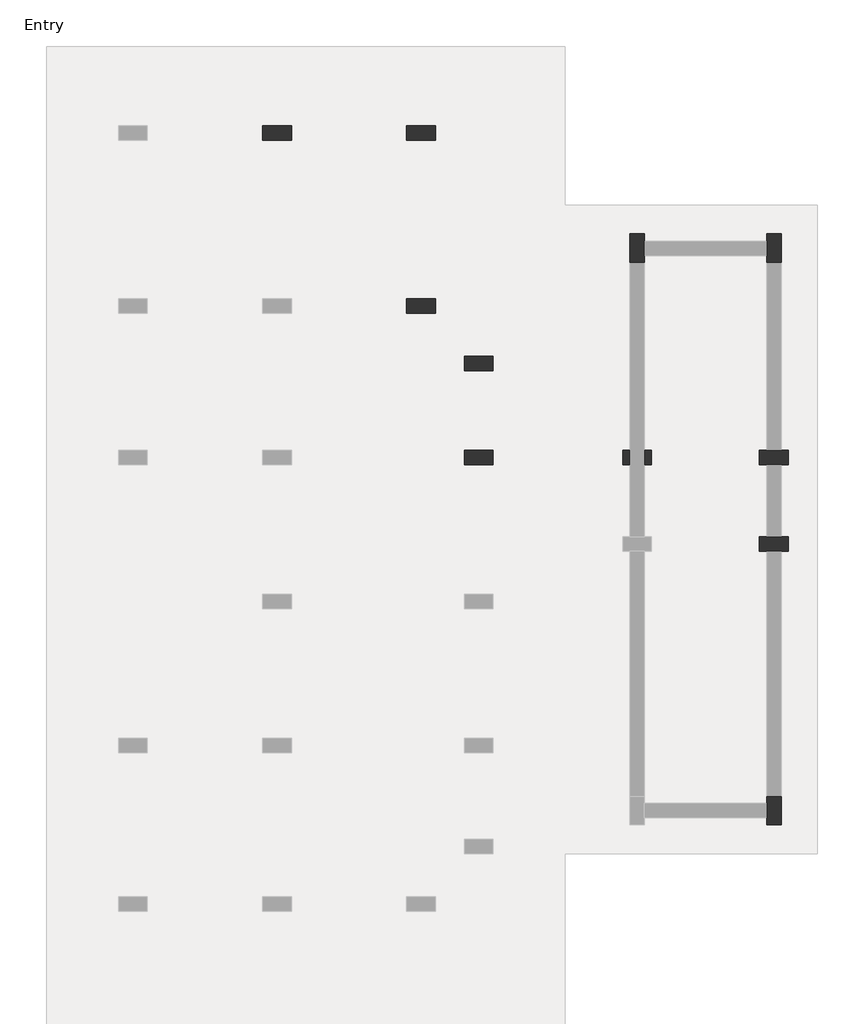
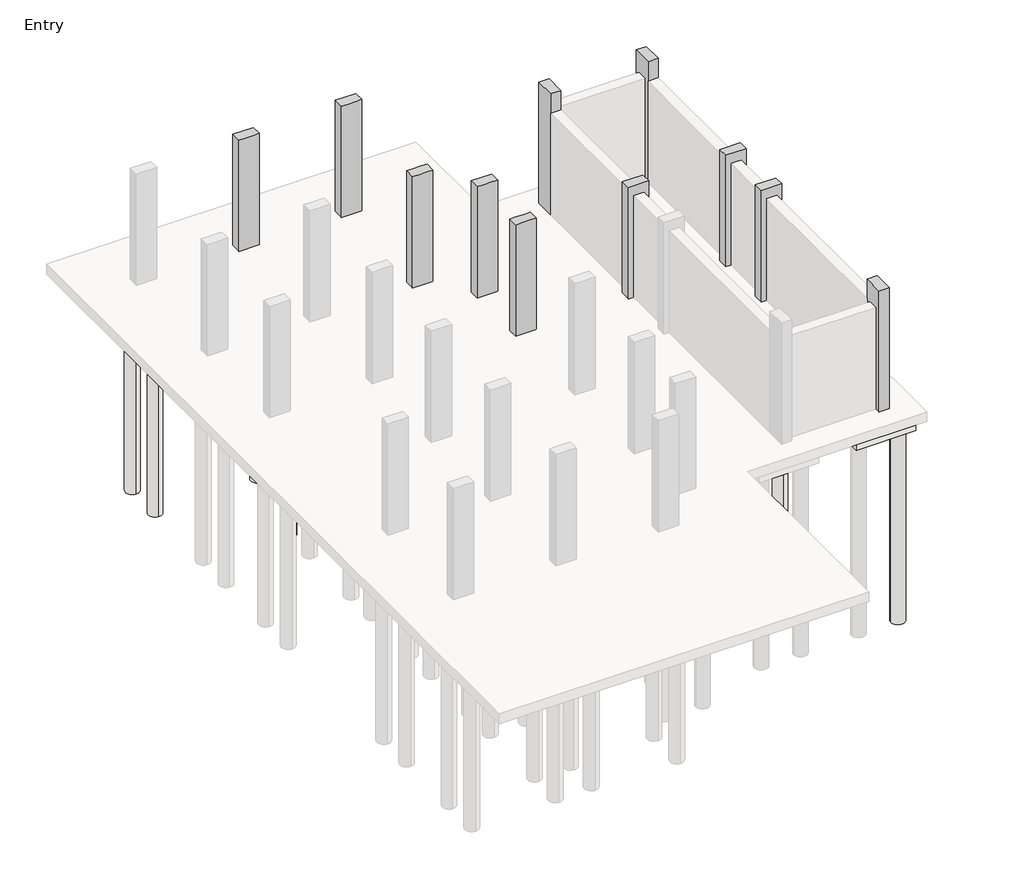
# One storey, part 3 of 3: 36 slabs, 11 columns.
"""IFC4 building model written with IfcOpenShell, lengths in millimetres."""

from ifc_helpers import new_model, si_unit, point, frame, frame_2d, origin, place, context, project, spatial, polyline, circle_curve, trimmed, segment, composite_curve, outline, extrude, faceted_brep, element, save

model = new_model("IFC4")

# Units and contexts
model_context = context("Model", 3, world=origin())
ifc_project = project(units=[si_unit("LENGTHUNIT", "METRE", prefix="MILLI")], contexts=[model_context])

# Site, building, storey
site = spatial("IfcSite", under=ifc_project)
building = spatial("IfcBuilding", under=site)
storey = spatial("IfcBuildingStorey", under=building, Name="Entry", Elevation=0.0)

# Columns
placement = place(None, origin())
element("IfcColumn", 1, ObjectType="Concrete-Rectangular-Column : 12 x 24", at=placement, inside=storey, context=model_context, shape_type="Brep", body=[
    faceted_brep([(-10423.1073204, 23769.0572372, 0.0), (-9813.5073204, 23769.0572372, 0.0), (-9813.5073204, 23464.2572372, 0.0), (-10423.1073204, 23464.2572372, 0.0), (-10423.1073204, 23769.0572372, 3505.2), (-9813.5073204, 23769.0572372, 3505.2), (-9813.5073204, 23769.0572372, 2895.6), (-10423.1073204, 23769.0572372, 2895.6), (-9813.5073204, 23464.2572372, 3505.2), (-9813.5073204, 23464.2572372, 2895.6), (-9965.9073204, 23464.2572372, 3505.2), (-10270.7073204, 23464.2572372, 3505.2), (-10423.1073204, 23464.2572372, 3505.2), (-10423.1073204, 23464.2572372, 2895.6)], [[[0, 1, 2, 3]], [[4, 5, 6, 1, 0, 7]], [[5, 8, 9, 2, 1, 6]], [[8, 10, 11, 12, 13, 3, 2, 9]], [[12, 4, 7, 0, 3, 13]], [[4, 12, 11, 10, 8, 5]]]),
])
element("IfcColumn", 2, ObjectType="Concrete-Rectangular-Column : 12 x 24", at=placement, inside=storey, context=model_context, shape_type="Brep", body=[
    faceted_brep([(-7375.1073204, 23769.0572372, 0.0), (-6765.5073204, 23769.0572372, 0.0), (-6765.5073204, 23464.2572372, 0.0), (-7375.1073204, 23464.2572372, 0.0), (-7375.1073204, 23769.0572372, 3505.2), (-6765.5073204, 23769.0572372, 3505.2), (-7375.1073204, 23769.0572372, 2895.6), (-6765.5073204, 23464.2572372, 3505.2), (-6917.9073204, 23464.2572372, 3505.2), (-7222.7073204, 23464.2572372, 3505.2), (-7375.1073204, 23464.2572372, 3505.2), (-7375.1073204, 23464.2572372, 2895.6)], [[[0, 1, 2, 3]], [[4, 5, 1, 0, 6]], [[5, 7, 2, 1]], [[7, 8, 9, 10, 11, 3, 2]], [[10, 4, 6, 0, 3, 11]], [[4, 10, 9, 8, 7, 5]]]),
])
element("IfcColumn", 3, ObjectType="Concrete-Rectangular-Column : 12 x 24", at=placement, inside=storey, context=model_context, shape_type="Brep", body=[
    faceted_brep([(-7375.1073204, 20111.4572372, 0.0), (-6765.5073204, 20111.4572372, 0.0), (-6765.5073204, 19806.6572372, 0.0), (-7375.1073204, 19806.6572372, 0.0), (-7375.1073204, 20111.4572372, 3505.2), (-7222.7073204, 20111.4572372, 3505.2), (-6917.9073204, 20111.4572372, 3505.2), (-6765.5073204, 20111.4572372, 3505.2), (-7375.1073204, 20111.4572372, 2895.6), (-6765.5073204, 19806.6572372, 3505.2), (-6917.9073204, 19806.6572372, 3505.2), (-7222.7073204, 19806.6572372, 3505.2), (-7375.1073204, 19806.6572372, 3505.2), (-7375.1073204, 19806.6572372, 2895.6)], [[[0, 1, 2, 3]], [[4, 5, 6, 7, 1, 0, 8]], [[7, 9, 2, 1]], [[9, 10, 11, 12, 13, 3, 2]], [[12, 4, 8, 0, 3, 13]], [[4, 12, 11, 10, 9, 7, 6, 5]]]),
])
element("IfcColumn", 4, ObjectType="Concrete-Rectangular-Column : 12 x 24", at=placement, inside=storey, context=model_context, shape_type="Brep", body=[
    faceted_brep([(-6156.6500241, 18892.9999409, 0.0), (-5547.0500241, 18892.9999409, 0.0), (-5547.0500241, 18588.1999409, 0.0), (-6156.6500241, 18588.1999409, 0.0), (-6156.6500241, 18892.9999409, 3505.2), (-5547.0500241, 18892.9999409, 3505.2), (-6156.6500241, 18892.9999409, 2895.6), (-5547.0500241, 18588.1999409, 3505.2), (-5699.4500241, 18588.1999409, 3505.2), (-6004.2500241, 18588.1999409, 3505.2), (-6156.6500241, 18588.1999409, 3505.2), (-6156.6500241, 18588.1999409, 2895.6)], [[[0, 1, 2, 3]], [[4, 5, 1, 0, 6]], [[5, 7, 2, 1]], [[7, 8, 9, 10, 11, 3, 2]], [[10, 4, 6, 0, 3, 11]], [[4, 10, 9, 8, 7, 5]]]),
])
element("IfcColumn", 5, ObjectType="Concrete-Rectangular-Column : 12 x 24", at=placement, inside=storey, context=model_context, shape_type="Brep", body=[
    faceted_brep([(-6156.6500241, 16911.0572372, 0.0), (-5547.0500241, 16911.0572372, 0.0), (-5547.0500241, 16606.2572372, 0.0), (-6156.6500241, 16606.2572372, 0.0), (-6156.6500241, 16911.0572372, 3505.2), (-6004.2500241, 16911.0572372, 3505.2), (-5699.4500241, 16911.0572372, 3505.2), (-5547.0500241, 16911.0572372, 3505.2), (-5547.0500241, 16911.0572372, 2895.6), (-6156.6500241, 16911.0572372, 2895.6), (-5547.0500241, 16606.2572372, 3505.2), (-5547.0500241, 16606.2572372, 2895.6), (-5699.4500241, 16606.2572372, 3505.2), (-6004.2500241, 16606.2572372, 3505.2), (-6156.6500241, 16606.2572372, 3505.2), (-6156.6500241, 16606.2572372, 2895.6)], [[[0, 1, 2, 3]], [[4, 5, 6, 7, 8, 1, 0, 9]], [[7, 10, 11, 2, 1, 8]], [[10, 12, 13, 14, 15, 3, 2, 11]], [[14, 4, 9, 0, 3, 15]], [[4, 14, 13, 12, 10, 7, 6, 5]]]),
])
element("IfcColumn", 6, ObjectType="Concrete-Rectangular-Column : 12 x 24", at=placement, inside=storey, context=model_context, shape_type="SweptSolid", body=[
    extrude(outline(polyline([(0.0, -2346.6500241), (0.0, -2194.2500241), (3505.2, -2194.2500241), (3505.2, -2803.8500241), (0.0, -2803.8500241), (0.0, -2651.4500241), (3200.4, -2651.4500241), (3200.4, -2346.6500241), (0.0, -2346.6500241)])), frame((0.0, 16606.2572372, 0.0), z_axis=(0.0, 1.0, 0.0), x_axis=(0.0, 0.0, 1.0)), (0.0, 0.0, 1.0), 304.8),
])
element("IfcColumn", 7, ObjectType="Concrete-Rectangular-Column : 12 x 24", at=placement, inside=storey, context=model_context, shape_type="Brep", body=[
    faceted_brep([(89.9860546, 16911.0572372, 0.0), (242.3860546, 16911.0572372, 0.0), (547.1860546, 16911.0572372, 0.0), (699.5860546, 16911.0572372, 0.0), (699.5860546, 16606.2572372, 0.0), (547.1860546, 16606.2572372, 0.0), (242.3860546, 16606.2572372, 0.0), (89.9860546, 16606.2572372, 0.0), (89.9860546, 16911.0572372, 3505.2), (699.5860546, 16911.0572372, 3505.2), (699.5860546, 16606.2572372, 3505.2), (89.9860546, 16606.2572372, 3505.2)], [[[0, 1, 2, 3, 4, 5, 6, 7]], [[3, 2, 1, 0, 8, 9]], [[4, 3, 9, 10]], [[7, 6, 5, 4, 10, 11]], [[0, 7, 11, 8]], [[9, 8, 11, 10]]]),
])
element("IfcColumn", 8, ObjectType="Concrete-Rectangular-Column : 12 x 24", at=placement, inside=storey, context=model_context, shape_type="Brep", body=[
    faceted_brep([(89.9860546, 15082.2572372, 0.0), (242.3860546, 15082.2572372, 0.0), (547.1860546, 15082.2572372, 0.0), (699.5860546, 15082.2572372, 0.0), (699.5860546, 14777.4572372, 0.0), (547.1860546, 14777.4572372, 0.0), (242.3860546, 14777.4572372, 0.0), (89.9860546, 14777.4572372, 0.0), (89.9860546, 15082.2572372, 3505.2), (699.5860546, 15082.2572372, 3505.2), (699.5860546, 14777.4572372, 3505.2), (89.9860546, 14777.4572372, 3505.2)], [[[0, 1, 2, 3, 4, 5, 6, 7]], [[3, 2, 1, 0, 8, 9]], [[4, 3, 9, 10]], [[7, 6, 5, 4, 10, 11]], [[0, 7, 11, 8]], [[9, 8, 11, 10]]]),
])
element("IfcColumn", 9, ObjectType="Concrete-Rectangular-Column : 12 x 24", at=placement, inside=storey, context=model_context, shape_type="Brep", body=[
    faceted_brep([(-2346.6500241, 21483.0572372, 0.0), (-2346.6500241, 21330.6572372, 0.0), (-2346.6500241, 21025.8572372, 0.0), (-2346.6500241, 20873.4572372, 0.0), (-2651.4500241, 20873.4572372, 0.0), (-2651.4500241, 21483.0572372, 0.0), (-2346.6500241, 21483.0572372, 3810.0), (-2346.6500241, 20873.4572372, 3810.0), (-2346.6500241, 20873.4572372, 3200.4), (-2651.4500241, 20873.4572372, 3810.0), (-2651.4500241, 20873.4572372, 3200.4), (-2651.4500241, 21483.0572372, 3810.0)], [[[0, 1, 2, 3, 4, 5]], [[6, 7, 8, 3, 2, 1, 0]], [[7, 9, 10, 4, 3, 8]], [[9, 11, 5, 4, 10]], [[11, 6, 0, 5]], [[6, 11, 9, 7]]]),
])
element("IfcColumn", 10, ObjectType="Concrete-Rectangular-Column : 12 x 24", at=placement, inside=storey, context=model_context, shape_type="Brep", body=[
    faceted_brep([(547.1860546, 21483.0572372, 0.0), (547.1860546, 20873.4572372, 0.0), (242.3860546, 20873.4572372, 0.0), (242.3860546, 21025.8572372, 0.0), (242.3860546, 21330.6572372, 0.0), (242.3860546, 21483.0572372, 0.0), (547.1860546, 21483.0572372, 3810.0), (547.1860546, 20873.4572372, 3810.0), (547.1860546, 20873.4572372, 3200.4), (242.3860546, 20873.4572372, 3810.0), (242.3860546, 20873.4572372, 3200.4), (242.3860546, 21483.0572372, 3810.0)], [[[0, 1, 2, 3, 4, 5]], [[6, 7, 8, 1, 0]], [[7, 9, 10, 2, 1, 8]], [[9, 11, 5, 4, 3, 2, 10]], [[11, 6, 0, 5]], [[6, 11, 9, 7]]]),
])
element("IfcColumn", 11, ObjectType="Concrete-Rectangular-Column : 12 x 24", at=placement, inside=storey, context=model_context, shape_type="Brep", body=[
    faceted_brep([(547.1860546, 9595.8572372, 0.0), (547.1860546, 8986.2572372, 0.0), (242.3860546, 8986.2572372, 0.0), (242.3860546, 9138.6572372, 0.0), (242.3860546, 9443.4572372, 0.0), (242.3860546, 9595.8572372, 0.0), (547.1860546, 9595.8572372, 3810.0), (547.1860546, 8986.2572372, 3810.0), (547.1860546, 9595.8572372, 3200.4), (242.3860546, 8986.2572372, 3810.0), (242.3860546, 9595.8572372, 3810.0), (242.3860546, 9595.8572372, 3200.4)], [[[0, 1, 2, 3, 4, 5]], [[6, 7, 1, 0, 8]], [[7, 9, 2, 1]], [[9, 10, 11, 5, 4, 3, 2]], [[10, 6, 8, 0, 5, 11]], [[6, 10, 9, 7]]]),
])

# Slabs
element("IfcSlab", 12, ObjectType="Pile Cap-2 Pile : 31\"x61\"x35\"", at=placement, inside=storey, context=model_context, shape_type="Brep", body=[
    faceted_brep([(-7476.7073204, 20848.0572372, -889.0), (-6663.9073204, 20848.0572372, -889.0), (-6663.9073204, 19146.2572372, -889.0), (-6663.9073204, 19070.0572372, -889.0), (-6740.8500241, 19070.0572372, -889.0), (-7476.7073204, 19070.0572372, -889.0), (-7476.7073204, 19070.0572372, -304.8), (-7476.7073204, 20848.0572372, -304.8), (-6663.9073204, 19070.0572372, -304.8), (-6740.8500241, 19070.0572372, -304.8), (-6663.9073204, 20848.0572372, -304.8), (-6663.9073204, 19146.2572372, -304.8)], [[[0, 1, 2, 3, 4, 5]], [[0, 5, 6, 7]], [[5, 4, 3, 8, 9, 6]], [[3, 2, 1, 10, 11, 8]], [[1, 0, 7, 10]], [[7, 6, 9, 8, 11, 10]]]),
])
element("IfcSlab", 13, ObjectType="Pile Cap-2 Pile : 31\"x61\"x35\"", at=placement, inside=storey, context=model_context, shape_type="SweptSolid", body=[
    extrude(outline(polyline([(-10524.7073204, 24505.6572372), (-9711.9073204, 24505.6572372), (-9711.9073204, 22727.6572372), (-10524.7073204, 22727.6572372), (-10524.7073204, 24505.6572372)])), frame((0.0, 0.0, -889.0), z_axis=(0.0, 0.0, 1.0), x_axis=(1.0, 0.0, 0.0)), (0.0, 0.0, 1.0), 584.2),
])
element("IfcSlab", 14, ObjectType="Pile Cap-2 Pile : 31\"x61\"x35\"", at=placement, inside=storey, context=model_context, shape_type="SweptSolid", body=[
    extrude(outline(polyline([(-7476.7073204, 24505.6572372), (-6663.9073204, 24505.6572372), (-6663.9073204, 22727.6572372), (-7476.7073204, 22727.6572372), (-7476.7073204, 24505.6572372)])), frame((0.0, 0.0, -889.0), z_axis=(0.0, 0.0, 1.0), x_axis=(1.0, 0.0, 0.0)), (0.0, 0.0, 1.0), 584.2),
])
element("IfcSlab", 15, ObjectType="Pile Cap-2 Pile : 31\"x61\"x35\"", at=placement, inside=storey, context=model_context, shape_type="SweptSolid", body=[
    extrude(outline(polyline([(-6258.2500241, 17647.6572372), (-5445.4500241, 17647.6572372), (-5445.4500241, 15869.6572372), (-6258.2500241, 15869.6572372), (-6258.2500241, 17647.6572372)])), frame((0.0, 0.0, -889.0), z_axis=(0.0, 0.0, 1.0), x_axis=(1.0, 0.0, 0.0)), (0.0, 0.0, 1.0), 584.2),
])
element("IfcSlab", 16, ObjectType="Pile Cap-2 Pile : 31\"x61\"x35\"", at=placement, inside=storey, context=model_context, shape_type="SweptSolid", body=[
    extrude(outline(polyline([(-1610.0500241, 21584.6572372), (-1610.0500241, 20771.8572372), (-3388.0500241, 20771.8572372), (-3388.0500241, 21584.6572372), (-1610.0500241, 21584.6572372)])), frame((0.0, 0.0, -889.0), z_axis=(0.0, 0.0, 1.0), x_axis=(1.0, 0.0, 0.0)), (0.0, 0.0, 1.0), 584.2),
])
element("IfcSlab", 17, ObjectType="Pile Cap-2 Pile : 31\"x61\"x35\"", at=placement, inside=storey, context=model_context, shape_type="SweptSolid", body=[
    extrude(outline(polyline([(1283.7860546, 21584.6572372), (1283.7860546, 20771.8572372), (-494.2139454, 20771.8572372), (-494.2139454, 21584.6572372), (1283.7860546, 21584.6572372)])), frame((0.0, 0.0, -889.0), z_axis=(0.0, 0.0, 1.0), x_axis=(1.0, 0.0, 0.0)), (0.0, 0.0, 1.0), 584.2),
])
element("IfcSlab", 18, ObjectType="Pile Cap-2 Pile : 31\"x61\"x35\"", at=placement, inside=storey, context=model_context, shape_type="SweptSolid", body=[
    extrude(outline(polyline([(-11.6139454, 17647.6572372), (801.1860546, 17647.6572372), (801.1860546, 15869.6572372), (-11.6139454, 15869.6572372), (-11.6139454, 17647.6572372)])), frame((0.0, 0.0, -889.0), z_axis=(0.0, 0.0, 1.0), x_axis=(1.0, 0.0, 0.0)), (0.0, 0.0, 1.0), 584.2),
])
element("IfcSlab", 19, ObjectType="Pile Cap-2 Pile : 31\"x61\"x35\"", at=placement, inside=storey, context=model_context, shape_type="SweptSolid", body=[
    extrude(outline(polyline([(-11.6139454, 15818.8572372), (801.1860546, 15818.8572372), (801.1860546, 14040.8572372), (-11.6139454, 14040.8572372), (-11.6139454, 15818.8572372)])), frame((0.0, 0.0, -889.0), z_axis=(0.0, 0.0, 1.0), x_axis=(1.0, 0.0, 0.0)), (0.0, 0.0, 1.0), 584.2),
])
element("IfcSlab", 20, ObjectType="Pile Cap-2 Pile : 31\"x61\"x35\"", at=placement, inside=storey, context=model_context, shape_type="SweptSolid", body=[
    extrude(outline(polyline([(-2905.4500241, 17647.6572372), (-2092.6500241, 17647.6572372), (-2092.6500241, 15869.6572372), (-2905.4500241, 15869.6572372), (-2905.4500241, 17647.6572372)])), frame((0.0, 0.0, -889.0), z_axis=(0.0, 0.0, 1.0), x_axis=(1.0, 0.0, 0.0)), (0.0, 0.0, 1.0), 584.2),
])
element("IfcSlab", 21, ObjectType="Pile Cap-2 Pile : 31\"x61\"x35\"", at=placement, inside=storey, context=model_context, shape_type="SweptSolid", body=[
    extrude(outline(polyline([(1283.7860546, 9697.4572372), (1283.7860546, 8884.6572372), (-494.2139454, 8884.6572372), (-494.2139454, 9697.4572372), (1283.7860546, 9697.4572372)])), frame((0.0, 0.0, -889.0), z_axis=(0.0, 0.0, 1.0), x_axis=(1.0, 0.0, 0.0)), (0.0, 0.0, 1.0), 584.2),
])
element("IfcSlab", 22, ObjectType="Pile Cap-2 Pile : 31\"x61\"x35\"", at=placement, inside=storey, context=model_context, shape_type="SweptSolid", body=[
    extrude(outline(polyline([(-4962.8500241, 19146.2572372), (-4962.8500241, 18333.4572372), (-6740.8500241, 18333.4572372), (-6740.8500241, 19070.0572372), (-6663.9073204, 19070.0572372), (-6663.9073204, 19146.2572372), (-4962.8500241, 19146.2572372)])), frame((0.0, 0.0, -889.0), z_axis=(0.0, 0.0, 1.0), x_axis=(1.0, 0.0, 0.0)), (0.0, 0.0, 1.0), 584.2),
])
element("IfcSlab", 23, ObjectType="Pile-Steel Pipe : 16\" Diameter", at=placement, inside=storey, context=model_context, shape_type="SweptSolid", body=[
    extrude(outline(composite_curve([segment(trimmed(circle_curve(frame_2d((-9584.9073204, 20492.4572372)), 203.2), [point((-9584.9073204, 20289.2572372))], [point((-9584.9073204, 20695.6572372))], False, "CARTESIAN"), True, "CONTINUOUS"), segment(trimmed(circle_curve(frame_2d((-9584.9073204, 20492.4572372)), 203.2), [point((-9584.9073204, 20695.6572372))], [point((-9584.9073204, 20289.2572372))], False, "CARTESIAN"), True, "CONTINUOUS")], self_intersect=False)), frame((0.0, 0.0, -6985.0), z_axis=(0.0, 0.0, 1.0), x_axis=(1.0, 0.0, 0.0)), (0.0, 0.0, 1.0), 6096.0),
])
element("IfcSlab", 24, ObjectType="Pile-Steel Pipe : 16\" Diameter", at=placement, inside=storey, context=model_context, shape_type="SweptSolid", body=[
    extrude(outline(composite_curve([segment(trimmed(circle_curve(frame_2d((-10651.7073204, 20492.4572372)), 203.2), [point((-10651.7073204, 20289.2572372))], [point((-10651.7073204, 20695.6572372))], False, "CARTESIAN"), True, "CONTINUOUS"), segment(trimmed(circle_curve(frame_2d((-10651.7073204, 20492.4572372)), 203.2), [point((-10651.7073204, 20695.6572372))], [point((-10651.7073204, 20289.2572372))], False, "CARTESIAN"), True, "CONTINUOUS")], self_intersect=False)), frame((0.0, 0.0, -6985.0), z_axis=(0.0, 0.0, 1.0), x_axis=(1.0, 0.0, 0.0)), (0.0, 0.0, 1.0), 6096.0),
])
element("IfcSlab", 25, ObjectType="Pile-Steel Pipe : 16\" Diameter", at=placement, inside=storey, context=model_context, shape_type="SweptSolid", body=[
    extrude(outline(composite_curve([segment(trimmed(circle_curve(frame_2d((-13166.3073204, 23032.4572372)), 203.2), [point((-13166.3073204, 22829.2572372))], [point((-13166.3073204, 23235.6572372))], False, "CARTESIAN"), True, "CONTINUOUS"), segment(trimmed(circle_curve(frame_2d((-13166.3073204, 23032.4572372)), 203.2), [point((-13166.3073204, 23235.6572372))], [point((-13166.3073204, 22829.2572372))], False, "CARTESIAN"), True, "CONTINUOUS")], self_intersect=False)), frame((0.0, 0.0, -6985.0), z_axis=(0.0, 0.0, 1.0), x_axis=(1.0, 0.0, 0.0)), (0.0, 0.0, 1.0), 6096.0),
])
element("IfcSlab", 26, ObjectType="Pile-Steel Pipe : 16\" Diameter", at=placement, inside=storey, context=model_context, shape_type="SweptSolid", body=[
    extrude(outline(composite_curve([segment(trimmed(circle_curve(frame_2d((-13166.3073204, 24200.8572372)), 203.2), [point((-13166.3073204, 23997.6572372))], [point((-13166.3073204, 24404.0572372))], False, "CARTESIAN"), True, "CONTINUOUS"), segment(trimmed(circle_curve(frame_2d((-13166.3073204, 24200.8572372)), 203.2), [point((-13166.3073204, 24404.0572372))], [point((-13166.3073204, 23997.6572372))], False, "CARTESIAN"), True, "CONTINUOUS")], self_intersect=False)), frame((0.0, 0.0, -6985.0), z_axis=(0.0, 0.0, 1.0), x_axis=(1.0, 0.0, 0.0)), (0.0, 0.0, 1.0), 6096.0),
])
element("IfcSlab", 27, ObjectType="Pile-Steel Pipe : 16\" Diameter", at=placement, inside=storey, context=model_context, shape_type="SweptSolid", body=[
    extrude(outline(composite_curve([segment(trimmed(circle_curve(frame_2d((-7070.3073204, 19374.8572372)), 203.2), [point((-7070.3073204, 19171.6572372))], [point((-7070.3073204, 19578.0572372))], False, "CARTESIAN"), True, "CONTINUOUS"), segment(trimmed(circle_curve(frame_2d((-7070.3073204, 19374.8572372)), 203.2), [point((-7070.3073204, 19578.0572372))], [point((-7070.3073204, 19171.6572372))], False, "CARTESIAN"), True, "CONTINUOUS")], self_intersect=False)), frame((0.0, 0.0, -6985.0), z_axis=(0.0, 0.0, 1.0), x_axis=(1.0, 0.0, 0.0)), (0.0, 0.0, 1.0), 6096.0),
])
element("IfcSlab", 28, ObjectType="Pile-Steel Pipe : 16\" Diameter", at=placement, inside=storey, context=model_context, shape_type="SweptSolid", body=[
    extrude(outline(composite_curve([segment(trimmed(circle_curve(frame_2d((-7070.3073204, 20543.2572372)), 203.2), [point((-7070.3073204, 20340.0572372))], [point((-7070.3073204, 20746.4572372))], False, "CARTESIAN"), True, "CONTINUOUS"), segment(trimmed(circle_curve(frame_2d((-7070.3073204, 20543.2572372)), 203.2), [point((-7070.3073204, 20746.4572372))], [point((-7070.3073204, 20340.0572372))], False, "CARTESIAN"), True, "CONTINUOUS")], self_intersect=False)), frame((0.0, 0.0, -6985.0), z_axis=(0.0, 0.0, 1.0), x_axis=(1.0, 0.0, 0.0)), (0.0, 0.0, 1.0), 6096.0),
])
element("IfcSlab", 29, ObjectType="Pile-Steel Pipe : 16\" Diameter", at=placement, inside=storey, context=model_context, shape_type="SweptSolid", body=[
    extrude(outline(composite_curve([segment(trimmed(circle_curve(frame_2d((-10118.3073204, 23032.4572372)), 203.2), [point((-10118.3073204, 22829.2572372))], [point((-10118.3073204, 23235.6572372))], False, "CARTESIAN"), True, "CONTINUOUS"), segment(trimmed(circle_curve(frame_2d((-10118.3073204, 23032.4572372)), 203.2), [point((-10118.3073204, 23235.6572372))], [point((-10118.3073204, 22829.2572372))], False, "CARTESIAN"), True, "CONTINUOUS")], self_intersect=False)), frame((0.0, 0.0, -6985.0), z_axis=(0.0, 0.0, 1.0), x_axis=(1.0, 0.0, 0.0)), (0.0, 0.0, 1.0), 6096.0),
])
element("IfcSlab", 30, ObjectType="Pile-Steel Pipe : 16\" Diameter", at=placement, inside=storey, context=model_context, shape_type="SweptSolid", body=[
    extrude(outline(composite_curve([segment(trimmed(circle_curve(frame_2d((-10118.3073204, 24200.8572372)), 203.2), [point((-10118.3073204, 23997.6572372))], [point((-10118.3073204, 24404.0572372))], False, "CARTESIAN"), True, "CONTINUOUS"), segment(trimmed(circle_curve(frame_2d((-10118.3073204, 24200.8572372)), 203.2), [point((-10118.3073204, 24404.0572372))], [point((-10118.3073204, 23997.6572372))], False, "CARTESIAN"), True, "CONTINUOUS")], self_intersect=False)), frame((0.0, 0.0, -6985.0), z_axis=(0.0, 0.0, 1.0), x_axis=(1.0, 0.0, 0.0)), (0.0, 0.0, 1.0), 6096.0),
])
element("IfcSlab", 31, ObjectType="Pile-Steel Pipe : 16\" Diameter", at=placement, inside=storey, context=model_context, shape_type="SweptSolid", body=[
    extrude(outline(composite_curve([segment(trimmed(circle_curve(frame_2d((-7070.3073204, 23032.4572372)), 203.2), [point((-7070.3073204, 22829.2572372))], [point((-7070.3073204, 23235.6572372))], False, "CARTESIAN"), True, "CONTINUOUS"), segment(trimmed(circle_curve(frame_2d((-7070.3073204, 23032.4572372)), 203.2), [point((-7070.3073204, 23235.6572372))], [point((-7070.3073204, 22829.2572372))], False, "CARTESIAN"), True, "CONTINUOUS")], self_intersect=False)), frame((0.0, 0.0, -6985.0), z_axis=(0.0, 0.0, 1.0), x_axis=(1.0, 0.0, 0.0)), (0.0, 0.0, 1.0), 6096.0),
])
element("IfcSlab", 32, ObjectType="Pile-Steel Pipe : 16\" Diameter", at=placement, inside=storey, context=model_context, shape_type="SweptSolid", body=[
    extrude(outline(composite_curve([segment(trimmed(circle_curve(frame_2d((-7070.3073204, 24200.8572372)), 203.2), [point((-7070.3073204, 23997.6572372))], [point((-7070.3073204, 24404.0572372))], False, "CARTESIAN"), True, "CONTINUOUS"), segment(trimmed(circle_curve(frame_2d((-7070.3073204, 24200.8572372)), 203.2), [point((-7070.3073204, 24404.0572372))], [point((-7070.3073204, 23997.6572372))], False, "CARTESIAN"), True, "CONTINUOUS")], self_intersect=False)), frame((0.0, 0.0, -6985.0), z_axis=(0.0, 0.0, 1.0), x_axis=(1.0, 0.0, 0.0)), (0.0, 0.0, 1.0), 6096.0),
])
element("IfcSlab", 33, ObjectType="Pile-Steel Pipe : 16\" Diameter", at=placement, inside=storey, context=model_context, shape_type="SweptSolid", body=[
    extrude(outline(composite_curve([segment(trimmed(circle_curve(frame_2d((-5851.8500241, 16174.4572372)), 203.2), [point((-5851.8500241, 15971.2572372))], [point((-5851.8500241, 16377.6572372))], False, "CARTESIAN"), True, "CONTINUOUS"), segment(trimmed(circle_curve(frame_2d((-5851.8500241, 16174.4572372)), 203.2), [point((-5851.8500241, 16377.6572372))], [point((-5851.8500241, 15971.2572372))], False, "CARTESIAN"), True, "CONTINUOUS")], self_intersect=False)), frame((0.0, 0.0, -6985.0), z_axis=(0.0, 0.0, 1.0), x_axis=(1.0, 0.0, 0.0)), (0.0, 0.0, 1.0), 6096.0),
])
element("IfcSlab", 34, ObjectType="Pile-Steel Pipe : 16\" Diameter", at=placement, inside=storey, context=model_context, shape_type="SweptSolid", body=[
    extrude(outline(composite_curve([segment(trimmed(circle_curve(frame_2d((-5851.8500241, 17342.8572372)), 203.2), [point((-5851.8500241, 17139.6572372))], [point((-5851.8500241, 17546.0572372))], False, "CARTESIAN"), True, "CONTINUOUS"), segment(trimmed(circle_curve(frame_2d((-5851.8500241, 17342.8572372)), 203.2), [point((-5851.8500241, 17546.0572372))], [point((-5851.8500241, 17139.6572372))], False, "CARTESIAN"), True, "CONTINUOUS")], self_intersect=False)), frame((0.0, 0.0, -6985.0), z_axis=(0.0, 0.0, 1.0), x_axis=(1.0, 0.0, 0.0)), (0.0, 0.0, 1.0), 6096.0),
])
element("IfcSlab", 35, ObjectType="Pile-Steel Pipe : 16\" Diameter", at=placement, inside=storey, context=model_context, shape_type="SweptSolid", body=[
    extrude(outline(composite_curve([segment(trimmed(circle_curve(frame_2d((-3083.2500241, 21178.2572372)), 203.2), [point((-3286.4500241, 21178.2572372))], [point((-2880.0500241, 21178.2572372))], False, "CARTESIAN"), True, "CONTINUOUS"), segment(trimmed(circle_curve(frame_2d((-3083.2500241, 21178.2572372)), 203.2), [point((-2880.0500241, 21178.2572372))], [point((-3286.4500241, 21178.2572372))], False, "CARTESIAN"), True, "CONTINUOUS")], self_intersect=False)), frame((0.0, 0.0, -6985.0), z_axis=(0.0, 0.0, 1.0), x_axis=(1.0, 0.0, 0.0)), (0.0, 0.0, 1.0), 6096.0),
])
element("IfcSlab", 36, ObjectType="Pile-Steel Pipe : 16\" Diameter", at=placement, inside=storey, context=model_context, shape_type="SweptSolid", body=[
    extrude(outline(composite_curve([segment(trimmed(circle_curve(frame_2d((-1914.8500241, 21178.2572372)), 203.2), [point((-2118.0500241, 21178.2572372))], [point((-1711.6500241, 21178.2572372))], False, "CARTESIAN"), True, "CONTINUOUS"), segment(trimmed(circle_curve(frame_2d((-1914.8500241, 21178.2572372)), 203.2), [point((-1711.6500241, 21178.2572372))], [point((-2118.0500241, 21178.2572372))], False, "CARTESIAN"), True, "CONTINUOUS")], self_intersect=False)), frame((0.0, 0.0, -6985.0), z_axis=(0.0, 0.0, 1.0), x_axis=(1.0, 0.0, 0.0)), (0.0, 0.0, 1.0), 6096.0),
])
element("IfcSlab", 37, ObjectType="Pile-Steel Pipe : 16\" Diameter", at=placement, inside=storey, context=model_context, shape_type="SweptSolid", body=[
    extrude(outline(composite_curve([segment(trimmed(circle_curve(frame_2d((-189.4139454, 21178.2572372)), 203.2), [point((-392.6139454, 21178.2572372))], [point((13.7860546, 21178.2572372))], False, "CARTESIAN"), True, "CONTINUOUS"), segment(trimmed(circle_curve(frame_2d((-189.4139454, 21178.2572372)), 203.2), [point((13.7860546, 21178.2572372))], [point((-392.6139454, 21178.2572372))], False, "CARTESIAN"), True, "CONTINUOUS")], self_intersect=False)), frame((0.0, 0.0, -6985.0), z_axis=(0.0, 0.0, 1.0), x_axis=(1.0, 0.0, 0.0)), (0.0, 0.0, 1.0), 6096.0),
])
element("IfcSlab", 38, ObjectType="Pile-Steel Pipe : 16\" Diameter", at=placement, inside=storey, context=model_context, shape_type="SweptSolid", body=[
    extrude(outline(composite_curve([segment(trimmed(circle_curve(frame_2d((978.9860546, 21178.2572372)), 203.2), [point((775.7860546, 21178.2572372))], [point((1182.1860546, 21178.2572372))], False, "CARTESIAN"), True, "CONTINUOUS"), segment(trimmed(circle_curve(frame_2d((978.9860546, 21178.2572372)), 203.2), [point((1182.1860546, 21178.2572372))], [point((775.7860546, 21178.2572372))], False, "CARTESIAN"), True, "CONTINUOUS")], self_intersect=False)), frame((0.0, 0.0, -6985.0), z_axis=(0.0, 0.0, 1.0), x_axis=(1.0, 0.0, 0.0)), (0.0, 0.0, 1.0), 6096.0),
])
element("IfcSlab", 39, ObjectType="Pile-Steel Pipe : 16\" Diameter", at=placement, inside=storey, context=model_context, shape_type="SweptSolid", body=[
    extrude(outline(composite_curve([segment(trimmed(circle_curve(frame_2d((394.7860546, 16174.4572372)), 203.2), [point((394.7860546, 15971.2572372))], [point((394.7860546, 16377.6572372))], False, "CARTESIAN"), True, "CONTINUOUS"), segment(trimmed(circle_curve(frame_2d((394.7860546, 16174.4572372)), 203.2), [point((394.7860546, 16377.6572372))], [point((394.7860546, 15971.2572372))], False, "CARTESIAN"), True, "CONTINUOUS")], self_intersect=False)), frame((0.0, 0.0, -6985.0), z_axis=(0.0, 0.0, 1.0), x_axis=(1.0, 0.0, 0.0)), (0.0, 0.0, 1.0), 6096.0),
])
element("IfcSlab", 40, ObjectType="Pile-Steel Pipe : 16\" Diameter", at=placement, inside=storey, context=model_context, shape_type="SweptSolid", body=[
    extrude(outline(composite_curve([segment(trimmed(circle_curve(frame_2d((394.7860546, 17342.8572372)), 203.2), [point((394.7860546, 17139.6572372))], [point((394.7860546, 17546.0572372))], False, "CARTESIAN"), True, "CONTINUOUS"), segment(trimmed(circle_curve(frame_2d((394.7860546, 17342.8572372)), 203.2), [point((394.7860546, 17546.0572372))], [point((394.7860546, 17139.6572372))], False, "CARTESIAN"), True, "CONTINUOUS")], self_intersect=False)), frame((0.0, 0.0, -6985.0), z_axis=(0.0, 0.0, 1.0), x_axis=(1.0, 0.0, 0.0)), (0.0, 0.0, 1.0), 6096.0),
])
element("IfcSlab", 41, ObjectType="Pile-Steel Pipe : 16\" Diameter", at=placement, inside=storey, context=model_context, shape_type="SweptSolid", body=[
    extrude(outline(composite_curve([segment(trimmed(circle_curve(frame_2d((394.7860546, 14345.6572372)), 203.2), [point((394.7860546, 14142.4572372))], [point((394.7860546, 14548.8572372))], False, "CARTESIAN"), True, "CONTINUOUS"), segment(trimmed(circle_curve(frame_2d((394.7860546, 14345.6572372)), 203.2), [point((394.7860546, 14548.8572372))], [point((394.7860546, 14142.4572372))], False, "CARTESIAN"), True, "CONTINUOUS")], self_intersect=False)), frame((0.0, 0.0, -6985.0), z_axis=(0.0, 0.0, 1.0), x_axis=(1.0, 0.0, 0.0)), (0.0, 0.0, 1.0), 6096.0),
])
element("IfcSlab", 42, ObjectType="Pile-Steel Pipe : 16\" Diameter", at=placement, inside=storey, context=model_context, shape_type="SweptSolid", body=[
    extrude(outline(composite_curve([segment(trimmed(circle_curve(frame_2d((394.7860546, 15514.0572372)), 203.2), [point((394.7860546, 15310.8572372))], [point((394.7860546, 15717.2572372))], False, "CARTESIAN"), True, "CONTINUOUS"), segment(trimmed(circle_curve(frame_2d((394.7860546, 15514.0572372)), 203.2), [point((394.7860546, 15717.2572372))], [point((394.7860546, 15310.8572372))], False, "CARTESIAN"), True, "CONTINUOUS")], self_intersect=False)), frame((0.0, 0.0, -6985.0), z_axis=(0.0, 0.0, 1.0), x_axis=(1.0, 0.0, 0.0)), (0.0, 0.0, 1.0), 6096.0),
])
element("IfcSlab", 43, ObjectType="Pile-Steel Pipe : 16\" Diameter", at=placement, inside=storey, context=model_context, shape_type="SweptSolid", body=[
    extrude(outline(composite_curve([segment(trimmed(circle_curve(frame_2d((-2499.0500241, 16174.4572372)), 203.2), [point((-2499.0500241, 15971.2572372))], [point((-2499.0500241, 16377.6572372))], False, "CARTESIAN"), True, "CONTINUOUS"), segment(trimmed(circle_curve(frame_2d((-2499.0500241, 16174.4572372)), 203.2), [point((-2499.0500241, 16377.6572372))], [point((-2499.0500241, 15971.2572372))], False, "CARTESIAN"), True, "CONTINUOUS")], self_intersect=False)), frame((0.0, 0.0, -6985.0), z_axis=(0.0, 0.0, 1.0), x_axis=(1.0, 0.0, 0.0)), (0.0, 0.0, 1.0), 6096.0),
])
element("IfcSlab", 44, ObjectType="Pile-Steel Pipe : 16\" Diameter", at=placement, inside=storey, context=model_context, shape_type="SweptSolid", body=[
    extrude(outline(composite_curve([segment(trimmed(circle_curve(frame_2d((-2499.0500241, 17342.8572372)), 203.2), [point((-2499.0500241, 17139.6572372))], [point((-2499.0500241, 17546.0572372))], False, "CARTESIAN"), True, "CONTINUOUS"), segment(trimmed(circle_curve(frame_2d((-2499.0500241, 17342.8572372)), 203.2), [point((-2499.0500241, 17546.0572372))], [point((-2499.0500241, 17139.6572372))], False, "CARTESIAN"), True, "CONTINUOUS")], self_intersect=False)), frame((0.0, 0.0, -6985.0), z_axis=(0.0, 0.0, 1.0), x_axis=(1.0, 0.0, 0.0)), (0.0, 0.0, 1.0), 6096.0),
])
element("IfcSlab", 45, ObjectType="Pile-Steel Pipe : 16\" Diameter", at=placement, inside=storey, context=model_context, shape_type="SweptSolid", body=[
    extrude(outline(composite_curve([segment(trimmed(circle_curve(frame_2d((978.9860546, 9291.0572372)), 203.2), [point((775.7860546, 9291.0572372))], [point((1182.1860546, 9291.0572372))], False, "CARTESIAN"), True, "CONTINUOUS"), segment(trimmed(circle_curve(frame_2d((978.9860546, 9291.0572372)), 203.2), [point((1182.1860546, 9291.0572372))], [point((775.7860546, 9291.0572372))], False, "CARTESIAN"), True, "CONTINUOUS")], self_intersect=False)), frame((0.0, 0.0, -6985.0), z_axis=(0.0, 0.0, 1.0), x_axis=(1.0, 0.0, 0.0)), (0.0, 0.0, 1.0), 6096.0),
])
element("IfcSlab", 46, ObjectType="Pile-Steel Pipe : 16\" Diameter", at=placement, inside=storey, context=model_context, shape_type="SweptSolid", body=[
    extrude(outline(composite_curve([segment(trimmed(circle_curve(frame_2d((-6436.0500241, 18739.8572372)), 203.2), [point((-6639.2500241, 18739.8572372))], [point((-6232.8500241, 18739.8572372))], False, "CARTESIAN"), True, "CONTINUOUS"), segment(trimmed(circle_curve(frame_2d((-6436.0500241, 18739.8572372)), 203.2), [point((-6232.8500241, 18739.8572372))], [point((-6639.2500241, 18739.8572372))], False, "CARTESIAN"), True, "CONTINUOUS")], self_intersect=False)), frame((0.0, 0.0, -6985.0), z_axis=(0.0, 0.0, 1.0), x_axis=(1.0, 0.0, 0.0)), (0.0, 0.0, 1.0), 6096.0),
])
element("IfcSlab", 47, ObjectType="Pile-Steel Pipe : 16\" Diameter", at=placement, inside=storey, context=model_context, shape_type="SweptSolid", body=[
    extrude(outline(composite_curve([segment(trimmed(circle_curve(frame_2d((-5267.6500241, 18739.8572372)), 203.2), [point((-5470.8500241, 18739.8572372))], [point((-5064.4500241, 18739.8572372))], False, "CARTESIAN"), True, "CONTINUOUS"), segment(trimmed(circle_curve(frame_2d((-5267.6500241, 18739.8572372)), 203.2), [point((-5064.4500241, 18739.8572372))], [point((-5470.8500241, 18739.8572372))], False, "CARTESIAN"), True, "CONTINUOUS")], self_intersect=False)), frame((0.0, 0.0, -6985.0), z_axis=(0.0, 0.0, 1.0), x_axis=(1.0, 0.0, 0.0)), (0.0, 0.0, 1.0), 6096.0),
])

save(model, "model.ifc")
